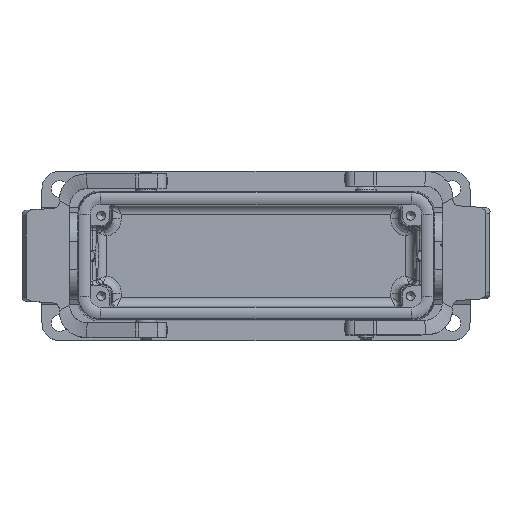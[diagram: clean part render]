
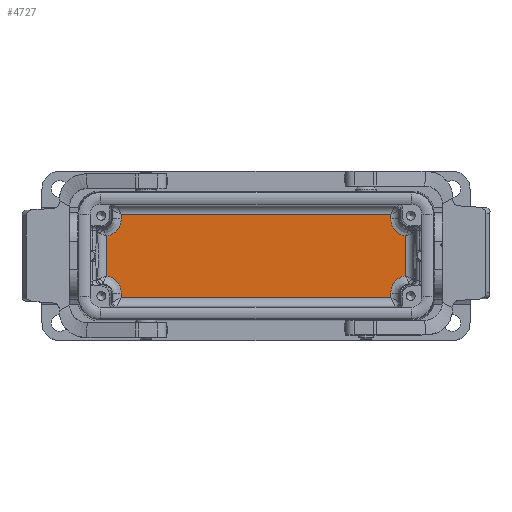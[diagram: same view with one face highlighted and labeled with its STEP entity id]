
A CAD part, top view. The second image highlights one B-rep face of the part: STEP entity #4727.
In plain terms, the highlighted planar face has unit normal (0, 0, 1).
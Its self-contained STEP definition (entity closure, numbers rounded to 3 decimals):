
#2220=PLANE('',#11959);
#2488=FACE_OUTER_BOUND('',#5679,.T.);
#3146=LINE('',#16311,#3959);
#3147=LINE('',#16314,#3960);
#3148=LINE('',#16316,#3961);
#3149=LINE('',#16320,#3962);
#3150=LINE('',#16324,#3963);
#3151=LINE('',#16326,#3964);
#3152=LINE('',#16328,#3965);
#3153=LINE('',#16332,#3966);
#3959=VECTOR('',#13230,1.);
#3960=VECTOR('',#13231,1.);
#3961=VECTOR('',#13232,1.);
#3962=VECTOR('',#13235,1.);
#3963=VECTOR('',#13238,1.);
#3964=VECTOR('',#13239,1.);
#3965=VECTOR('',#13240,1.);
#3966=VECTOR('',#13243,1.);
#4601=ELLIPSE('',#11955,6.003,6.);
#4602=ELLIPSE('',#11956,6.003,6.);
#4603=ELLIPSE('',#11957,6.003,6.);
#4604=ELLIPSE('',#11958,6.003,6.);
#4727=ADVANCED_FACE('',(#2488),#2220,.F.);
#5679=EDGE_LOOP('',(#6588,#6589,#6590,#6591,#6592,#6593,#6594,#6595,#6596,
#6597,#6598,#6599));
#6588=ORIENTED_EDGE('',*,*,#10139,.T.);
#6589=ORIENTED_EDGE('',*,*,#10140,.T.);
#6590=ORIENTED_EDGE('',*,*,#10141,.T.);
#6591=ORIENTED_EDGE('',*,*,#10142,.T.);
#6592=ORIENTED_EDGE('',*,*,#10143,.T.);
#6593=ORIENTED_EDGE('',*,*,#10144,.T.);
#6594=ORIENTED_EDGE('',*,*,#10145,.T.);
#6595=ORIENTED_EDGE('',*,*,#10146,.T.);
#6596=ORIENTED_EDGE('',*,*,#10147,.T.);
#6597=ORIENTED_EDGE('',*,*,#10148,.T.);
#6598=ORIENTED_EDGE('',*,*,#10149,.T.);
#6599=ORIENTED_EDGE('',*,*,#10150,.T.);
#9230=VERTEX_POINT('',#16312);
#9231=VERTEX_POINT('',#16313);
#9232=VERTEX_POINT('',#16315);
#9233=VERTEX_POINT('',#16317);
#9234=VERTEX_POINT('',#16319);
#9235=VERTEX_POINT('',#16321);
#9236=VERTEX_POINT('',#16323);
#9237=VERTEX_POINT('',#16325);
#9238=VERTEX_POINT('',#16327);
#9239=VERTEX_POINT('',#16329);
#9240=VERTEX_POINT('',#16331);
#9241=VERTEX_POINT('',#16333);
#10139=EDGE_CURVE('',#9230,#9231,#3146,.T.);
#10140=EDGE_CURVE('',#9231,#9232,#3147,.T.);
#10141=EDGE_CURVE('',#9232,#9233,#3148,.T.);
#10142=EDGE_CURVE('',#9233,#9234,#4601,.T.);
#10143=EDGE_CURVE('',#9234,#9235,#3149,.T.);
#10144=EDGE_CURVE('',#9235,#9236,#4602,.T.);
#10145=EDGE_CURVE('',#9236,#9237,#3150,.T.);
#10146=EDGE_CURVE('',#9237,#9238,#3151,.T.);
#10147=EDGE_CURVE('',#9238,#9239,#3152,.T.);
#10148=EDGE_CURVE('',#9239,#9240,#4603,.T.);
#10149=EDGE_CURVE('',#9240,#9241,#3153,.T.);
#10150=EDGE_CURVE('',#9241,#9230,#4604,.T.);
#11955=AXIS2_PLACEMENT_3D('',#16318,#13233,#13234);
#11956=AXIS2_PLACEMENT_3D('',#16322,#13236,#13237);
#11957=AXIS2_PLACEMENT_3D('',#16330,#13241,#13242);
#11958=AXIS2_PLACEMENT_3D('',#16334,#13244,#13245);
#11959=AXIS2_PLACEMENT_3D('',#16335,#13246,#13247);
#13230=DIRECTION('',(0.,-1.,0.));
#13231=DIRECTION('',(1.,0.,0.));
#13232=DIRECTION('',(0.,1.,0.));
#13233=DIRECTION('',(0.,0.,-1.));
#13234=DIRECTION('',(-0.832,0.555,0.));
#13235=DIRECTION('',(0.,1.,0.));
#13236=DIRECTION('',(0.,0.,-1.));
#13237=DIRECTION('',(0.832,0.555,0.));
#13238=DIRECTION('',(0.,1.,0.));
#13239=DIRECTION('',(-1.,0.,0.));
#13240=DIRECTION('',(0.,-1.,0.));
#13241=DIRECTION('',(0.,0.,-1.));
#13242=DIRECTION('',(0.832,-0.555,0.));
#13243=DIRECTION('',(0.,-1.,0.));
#13244=DIRECTION('',(0.,0.,-1.));
#13245=DIRECTION('',(-0.832,-0.555,0.));
#13246=DIRECTION('',(0.,0.,-1.));
#13247=DIRECTION('',(-1.,0.,0.));
#16311=CARTESIAN_POINT('',(-45.323,17.75,-40.25));
#16312=CARTESIAN_POINT('',(-45.323,-12.498,-40.25));
#16313=CARTESIAN_POINT('',(-45.323,-13.966,-40.25));
#16314=CARTESIAN_POINT('',(46.746,-13.966,-40.25));
#16315=CARTESIAN_POINT('',(45.323,-13.966,-40.25));
#16316=CARTESIAN_POINT('',(45.323,17.75,-40.25));
#16317=CARTESIAN_POINT('',(45.323,-12.498,-40.25));
#16318=CARTESIAN_POINT('',(51.326,-12.5,-40.25));
#16319=CARTESIAN_POINT('',(50.177,-6.61,-40.25));
#16320=CARTESIAN_POINT('',(50.177,17.75,-40.25));
#16321=CARTESIAN_POINT('',(50.177,6.61,-40.25));
#16322=CARTESIAN_POINT('',(51.326,12.5,-40.25));
#16323=CARTESIAN_POINT('',(45.323,12.498,-40.25));
#16324=CARTESIAN_POINT('',(45.323,17.75,-40.25));
#16325=CARTESIAN_POINT('',(45.323,13.966,-40.25));
#16326=CARTESIAN_POINT('',(-46.746,13.966,-40.25));
#16327=CARTESIAN_POINT('',(-45.323,13.966,-40.25));
#16328=CARTESIAN_POINT('',(-45.323,17.75,-40.25));
#16329=CARTESIAN_POINT('',(-45.323,12.498,-40.25));
#16330=CARTESIAN_POINT('',(-51.326,12.5,-40.25));
#16331=CARTESIAN_POINT('',(-50.177,6.61,-40.25));
#16332=CARTESIAN_POINT('',(-50.177,17.75,-40.25));
#16333=CARTESIAN_POINT('',(-50.177,-6.61,-40.25));
#16334=CARTESIAN_POINT('',(-51.326,-12.5,-40.25));
#16335=CARTESIAN_POINT('',(-55.647,17.75,-40.25));
